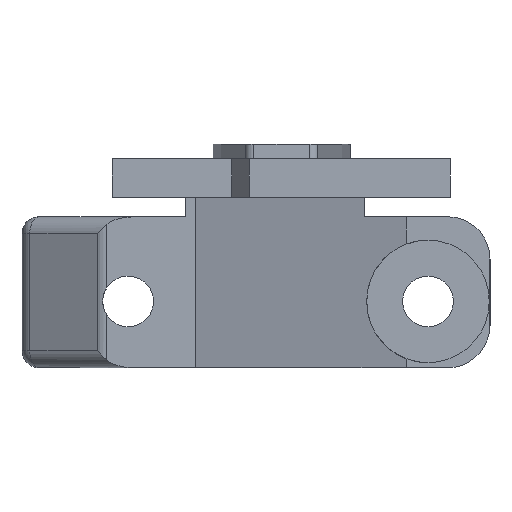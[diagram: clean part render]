
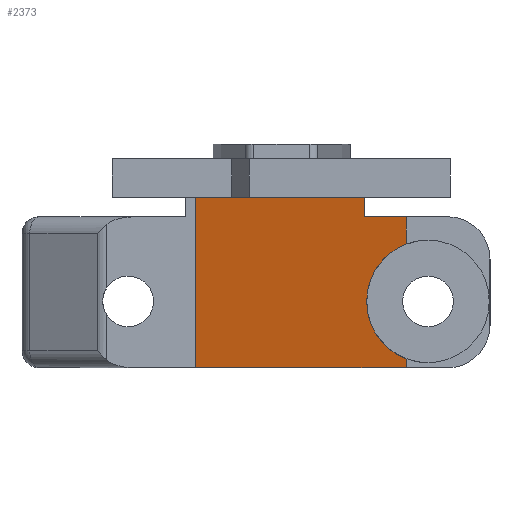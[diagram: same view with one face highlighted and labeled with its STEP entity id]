
A CAD part, left-side view. The second image highlights one B-rep face of the part: STEP entity #2373.
In plain terms, the highlighted planar face has unit normal (-0.962, 0.274, 0).
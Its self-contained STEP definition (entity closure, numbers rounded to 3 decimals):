
#23 = VERTEX_POINT ( 'NONE', #1261 ) ;
#106 = CARTESIAN_POINT ( 'NONE',  ( 192.042, 124.63, 24.915 ) ) ;
#129 = ORIENTED_EDGE ( 'NONE', *, *, #2973, .F. ) ;
#186 = CARTESIAN_POINT ( 'NONE',  ( 192.042, 124.63, 7.05 ) ) ;
#289 = CARTESIAN_POINT ( 'NONE',  ( 192.042, 124.63, 24.915 ) ) ;
#304 = PLANE ( 'NONE',  #3165 ) ;
#323 = LINE ( 'NONE', #186, #367 ) ;
#367 = VECTOR ( 'NONE', #2438, 1000. ) ;
#533 = CARTESIAN_POINT ( 'NONE',  ( 192.042, 124.63, 24.915 ) ) ;
#540 = VECTOR ( 'NONE', #2631, 1000. ) ;
#631 = CARTESIAN_POINT ( 'NONE',  ( 192.745, 127.1, 10.957 ) ) ;
#635 = EDGE_CURVE ( 'NONE', #1557, #986, #2009, .T. ) ;
#652 = CARTESIAN_POINT ( 'NONE',  ( 190.65, 119.738, 8.131 ) ) ;
#656 = VERTEX_POINT ( 'NONE', #106 ) ;
#740 = VECTOR ( 'NONE', #3448, 1000. ) ;
#850 = CARTESIAN_POINT ( 'NONE',  ( 190.65, 119.738, 21.669 ) ) ;
#974 = CARTESIAN_POINT ( 'NONE',  ( 192.042, 124.63, 27.2 ) ) ;
#986 = VERTEX_POINT ( 'NONE', #2029 ) ;
#1100 = EDGE_CURVE ( 'NONE', #3211, #1965, #3644, .T. ) ;
#1151 = CARTESIAN_POINT ( 'NONE',  ( 192.745, 127.1, 18.843 ) ) ;
#1159 = EDGE_CURVE ( 'NONE', #23, #1850, #2000, .T. ) ;
#1185 = CARTESIAN_POINT ( 'NONE',  ( 190.574, 119.473, 24.915 ) ) ;
#1208 = CARTESIAN_POINT ( 'NONE',  ( 190.65, 119.738, 24.915 ) ) ;
#1249 = ORIENTED_EDGE ( 'NONE', *, *, #2032, .F. ) ;
#1261 = CARTESIAN_POINT ( 'NONE',  ( 190.65, 119.738, 24.915 ) ) ;
#1288 = VECTOR ( 'NONE', #3238, 1000. ) ;
#1408 = LINE ( 'NONE', #3231, #1288 ) ;
#1421 = VECTOR ( 'NONE', #2907, 1000. ) ;
#1431 = CARTESIAN_POINT ( 'NONE',  ( 190.65, 119.738, 7.05 ) ) ;
#1506 = ORIENTED_EDGE ( 'NONE', *, *, #2698, .F. ) ;
#1516 = ORIENTED_EDGE ( 'NONE', *, *, #1159, .F. ) ;
#1535 = DIRECTION ( 'NONE',  ( -0.274, -0.962, 0. ) ) ;
#1557 = VERTEX_POINT ( 'NONE', #3278 ) ;
#1688 = CARTESIAN_POINT ( 'NONE',  ( 197.73, 144.616, 7.05 ) ) ;
#1727 = DIRECTION ( 'NONE',  ( -0.962, 0.274, 0. ) ) ;
#1827 = VECTOR ( 'NONE', #1535, 1000. ) ;
#1850 = VERTEX_POINT ( 'NONE', #3417 ) ;
#1961 = VERTEX_POINT ( 'NONE', #1688 ) ;
#1965 = VERTEX_POINT ( 'NONE', #1431 ) ;
#2000 = LINE ( 'NONE', #2654, #540 ) ;
#2009 = LINE ( 'NONE', #974, #1827 ) ;
#2029 = CARTESIAN_POINT ( 'NONE',  ( 192.042, 124.63, 27.2 ) ) ;
#2032 = EDGE_CURVE ( 'NONE', #1850, #3211, #3527, .T. ) ;
#2205 = ORIENTED_EDGE ( 'NONE', *, *, #2248, .T. ) ;
#2248 = EDGE_CURVE ( 'NONE', #1557, #1961, #1408, .T. ) ;
#2373 = ADVANCED_FACE ( 'NONE', ( #3284 ), #304, .T. ) ;
#2429 = ORIENTED_EDGE ( 'NONE', *, *, #1100, .F. ) ;
#2438 = DIRECTION ( 'NONE',  ( 0.274, 0.962, 0. ) ) ;
#2449 = VECTOR ( 'NONE', #2521, 1000. ) ;
#2504 = ORIENTED_EDGE ( 'NONE', *, *, #635, .F. ) ;
#2521 = DIRECTION ( 'NONE',  ( 0., 0., -1. ) ) ;
#2631 = DIRECTION ( 'NONE',  ( 0., 0., -1. ) ) ;
#2654 = CARTESIAN_POINT ( 'NONE',  ( 190.65, 119.738, 24.915 ) ) ;
#2694 = EDGE_LOOP ( 'NONE', ( #2429, #1249, #1516, #1506, #2967, #2504, #2205, #129 ) ) ;
#2698 = EDGE_CURVE ( 'NONE', #656, #23, #3010, .T. ) ;
#2890 = DIRECTION ( 'NONE',  ( -0.274, -0.962, 0. ) ) ;
#2907 = DIRECTION ( 'NONE',  ( 0., 0., -1. ) ) ;
#2967 = ORIENTED_EDGE ( 'NONE', *, *, #3101, .F. ) ;
#2973 = EDGE_CURVE ( 'NONE', #1965, #1961, #323, .T. ) ;
#3010 = LINE ( 'NONE', #1185, #740 ) ;
#3101 = EDGE_CURVE ( 'NONE', #986, #656, #3469, .T. ) ;
#3165 = AXIS2_PLACEMENT_3D ( 'NONE', #289, #1727, #2890 ) ;
#3211 = VERTEX_POINT ( 'NONE', #3416 ) ;
#3231 = CARTESIAN_POINT ( 'NONE',  ( 197.73, 144.616, 24.915 ) ) ;
#3238 = DIRECTION ( 'NONE',  ( 0., 0., -1. ) ) ;
#3278 = CARTESIAN_POINT ( 'NONE',  ( 197.73, 144.616, 27.2 ) ) ;
#3284 = FACE_OUTER_BOUND ( 'NONE', #2694, .T. ) ;
#3416 = CARTESIAN_POINT ( 'NONE',  ( 190.65, 119.738, 8.131 ) ) ;
#3417 = CARTESIAN_POINT ( 'NONE',  ( 190.65, 119.738, 21.669 ) ) ;
#3448 = DIRECTION ( 'NONE',  ( -0.274, -0.962, 0. ) ) ;
#3469 = LINE ( 'NONE', #533, #2449 ) ;
#3527 =( BOUNDED_CURVE ( )  B_SPLINE_CURVE ( 3, ( #850, #1151, #631, #652 ),
 .UNSPECIFIED., .F., .F. ) 
 B_SPLINE_CURVE_WITH_KNOTS ( ( 4, 4 ),
 ( 5.079, 7.487 ),
 .UNSPECIFIED. ) 
 CURVE ( )  GEOMETRIC_REPRESENTATION_ITEM ( )  RATIONAL_B_SPLINE_CURVE ( ( 1., 0.572, 0.572, 1. ) ) 
 REPRESENTATION_ITEM ( '' )  );
#3644 = LINE ( 'NONE', #1208, #1421 ) ;
